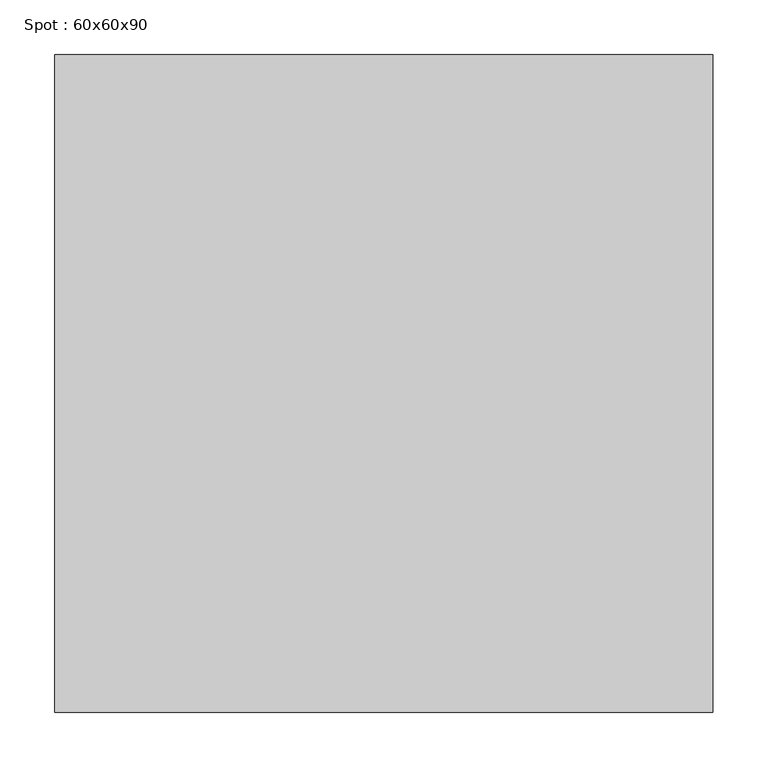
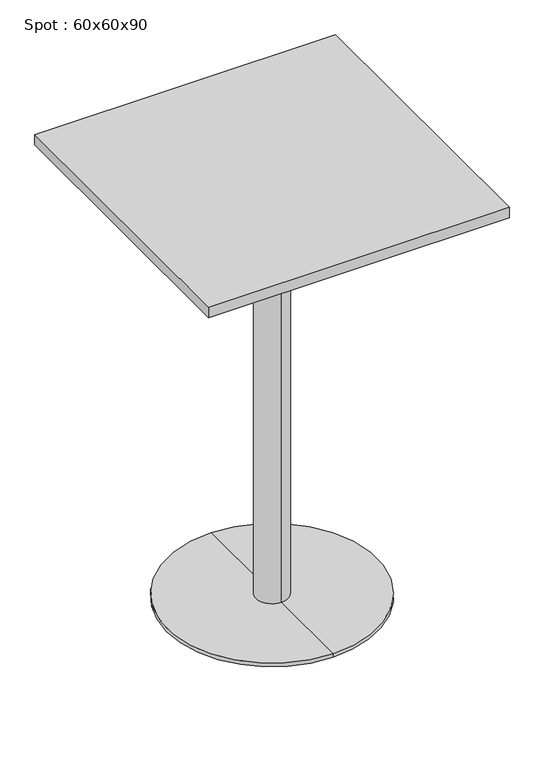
"""IFC4 building model written with IfcOpenShell, lengths in millimetres: furniture geometry, Spot : 60x60x90."""

from ifc_helpers import new_model, si_unit, frame, origin, place, context, project, spatial, polyline, circle_curve, outline, extrude, source, transform, mapped, element, save
from ifc_brep_helpers import plane_surface, cylinder_surface, revolved_surface, advanced_brep


def spot_60x60x90_c5017e09(model_context):
    return source(origin(), model_context, "Body", "SolidModel", [
        extrude(outline(polyline([(300.0, 300.0), (300.0, -300.0), (-300.0, -300.0), (-300.0, 300.0), (300.0, 300.0)])), frame((0.0, 0.0, 878.0), z_axis=(0.0, 0.0, 1.0), x_axis=(1.0, 0.0, 0.0)), (0.0, 0.0, 1.0), 22.0),
        advanced_brep(
        [(0.0, 32.0, 10.0), (0.0, -32.0, 10.0), (0.0, -32.0, 847.406916), (0.0, 32.0, 847.406916), (0.0, 210.0, 10.0), (0.0, -210.0, 10.0), (0.0, 210.0, 2.0), (0.0, -210.0, 2.0), (0.0, 0.0, 2.0), (0.0, 150.0, 878.0), (0.0, -150.0, 878.0), (0.0, 0.0, 878.0), (0.0, 150.0, 866.7213673), (0.0, -150.0, 866.7213673)],
        [
            (0, 1, circle_curve(frame((0.0, 0.0, 10.0), z_axis=(0.0, 0.0, 1.0), x_axis=(0.0, -1.0, 0.0)), 32.0)),
            (1, 2),
            (2, 3, circle_curve(frame((0.0, 0.0, 847.406916), z_axis=(0.0, 0.0, -1.0), x_axis=(0.0, -1.0, 0.0)), 32.0)),
            (3, 0),
            (1, 0, circle_curve(frame((0.0, 0.0, 10.0), z_axis=(0.0, 0.0, 1.0), x_axis=(0.0, -1.0, 0.0)), 32.0)),
            (3, 2, circle_curve(frame((0.0, 0.0, 847.406916), z_axis=(0.0, 0.0, -1.0), x_axis=(0.0, -1.0, 0.0)), 32.0)),
            (4, 5, circle_curve(frame((0.0, 0.0, 10.0), z_axis=(0.0, 0.0, 1.0), x_axis=(0.0, -1.0, 0.0)), 210.0)),
            (5, 1),
            (0, 4),
            (5, 4, circle_curve(frame((0.0, 0.0, 10.0), z_axis=(0.0, 0.0, 1.0), x_axis=(0.0, -1.0, 0.0)), 210.0)),
            (6, 7, circle_curve(frame((0.0, 0.0, 2.0), z_axis=(0.0, 0.0, 1.0), x_axis=(0.0, -1.0, 0.0)), 210.0)),
            (7, 5),
            (4, 6),
            (7, 6, circle_curve(frame((0.0, 0.0, 2.0), z_axis=(0.0, 0.0, 1.0), x_axis=(0.0, -1.0, 0.0)), 210.0)),
            (8, 7),
            (6, 8),
            (9, 10, circle_curve(frame((0.0, 0.0, 878.0), z_axis=(0.0, 0.0, 1.0), x_axis=(0.0, -1.0, 0.0)), 150.0)),
            (10, 11),
            (11, 9),
            (10, 9, circle_curve(frame((0.0, 0.0, 878.0), z_axis=(0.0, 0.0, 1.0), x_axis=(0.0, -1.0, 0.0)), 150.0)),
            (12, 13, circle_curve(frame((0.0, 0.0, 866.7213673), z_axis=(0.0, 0.0, 1.0), x_axis=(0.0, -1.0, 0.0)), 150.0)),
            (13, 10),
            (9, 12),
            (13, 12, circle_curve(frame((0.0, 0.0, 866.7213673), z_axis=(0.0, 0.0, 1.0), x_axis=(0.0, -1.0, 0.0)), 150.0)),
            (2, 13),
            (12, 3),
        ],
        [
            cylinder_surface(frame((0.0, 0.0, 1240.0), z_axis=(0.0, 0.0, -1.0), x_axis=(0.0, -1.0, 0.0)), 32.0),
            plane_surface(frame((0.0, 0.0, 10.0), z_axis=(0.0, 0.0, 1.0), x_axis=(0.0, -1.0, 0.0))),
            cylinder_surface(frame((0.0, 0.0, 1240.0), z_axis=(0.0, 0.0, -1.0), x_axis=(0.0, -1.0, 0.0)), 210.0),
            plane_surface(frame((0.0, 0.0, 2.0), z_axis=(0.0, 0.0, -1.0), x_axis=(0.0, -1.0, 0.0))),
            plane_surface(frame((0.0, 0.0, 878.0), z_axis=(0.0, 0.0, 1.0), x_axis=(0.0, -1.0, 0.0))),
            cylinder_surface(frame((0.0, 0.0, 1240.0), z_axis=(0.0, 0.0, -1.0), x_axis=(0.0, -1.0, 0.0)), 150.0),
            revolved_surface(polyline([(0.0, -150.0, 866.7213673), (0.0, -32.0, 847.406916)]), (0.0, 0.0, 1240.0), (0.0, 0.0, -1.0)),
        ],
        [
            (0, [[1, 2, 3, 4]]),
            (0, [[5, -4, 6, -2]]),
            (1, [[7, 8, -1, 9]]),
            (1, [[10, -9, -5, -8]]),
            (2, [[11, 12, -7, 13]]),
            (2, [[14, -13, -10, -12]]),
            (3, [[15, -11, 16]]),
            (3, [[-16, -14, -15]]),
            (4, [[17, 18, 19]]),
            (4, [[20, -19, -18]]),
            (5, [[21, 22, -17, 23]]),
            (5, [[24, -23, -20, -22]]),
            (6, [[-3, 25, -21, 26]]),
            (6, [[-6, -26, -24, -25]]),
        ],
    ),
    ])


if __name__ == "__main__":
    model = new_model("IFC4")
    model_context = context("Model", 3, world=origin())
    ifc_project = project(units=[si_unit("LENGTHUNIT", "METRE", prefix="MILLI")], contexts=[model_context])
    site = spatial("IfcSite", under=ifc_project)
    building = spatial("IfcBuilding", under=site)
    placement = place(None, origin())
    spot_60x60x90_shape = spot_60x60x90_c5017e09(model_context)
    element("IfcFurniture", 1, ObjectType="Spot : 60x60x90", at=placement, inside=building, context=model_context, shape_type="MappedRepresentation", body=[
        mapped(spot_60x60x90_shape, transform((0.0, 0.0, 0.0), x_axis=(1.0, 0.0, 0.0), y_axis=(0.0, 1.0, 0.0), z_axis=(0.0, 0.0, 1.0))),
    ])
    save(model, "model.ifc")
